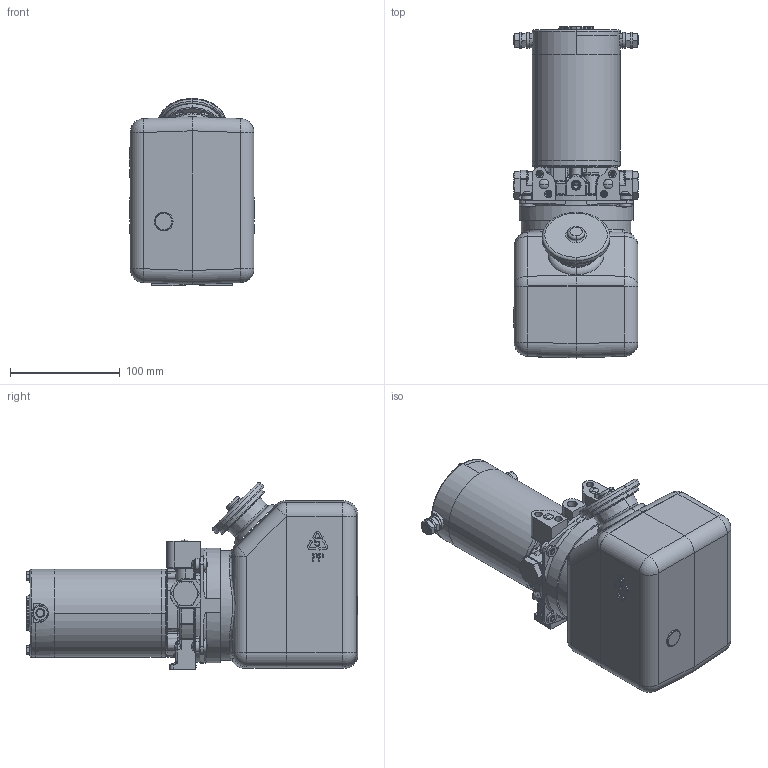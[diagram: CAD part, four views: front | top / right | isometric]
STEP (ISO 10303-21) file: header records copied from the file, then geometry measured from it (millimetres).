
FILE_DESCRIPTION((''),'2;1');
FILE_NAME('648972_SW0001','2014-11-19T',('DA10877'),('OILDYNE'),'PRO/ENGINEER BY PARAMETRIC TECHNOLOGY CORPORATION, 2009300','PRO/ENGINEER BY PARAMETRIC TECHNOLOGY CORPORATION, 2009300','');
FILE_SCHEMA(('CONFIG_CONTROL_DESIGN'));
Products named in the file (1): 648972_SW0001
Bounding box: 114.43 x 301.78 x 170.13 mm (x, y, z)
Surface area: 183030.6 mm2 (no closed solid volume)
Topology: 0 solids, 92 shells, 1451 faces, 5063 edges, 3565 vertices
Faces by surface type: plane 446, bspline 290, cylinder 264, cone 249, torus 149, sphere 51, extrusion 2
Entity records: 70706 total; most frequent: CARTESIAN_POINT 30767, ORIENTED_EDGE 7850, DIRECTION 7643, EDGE_CURVE 4979, VERTEX_POINT 3565, AXIS2_PLACEMENT_3D 2670, VECTOR 2303, LINE 2301
